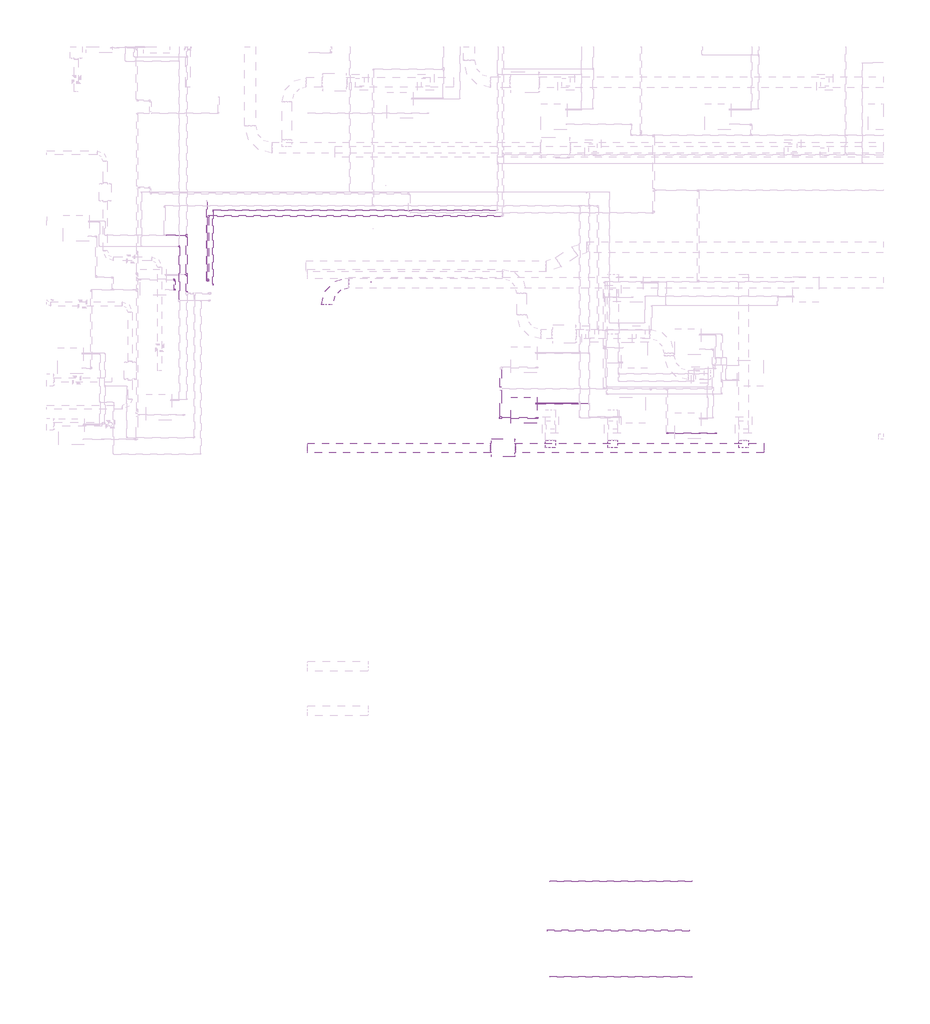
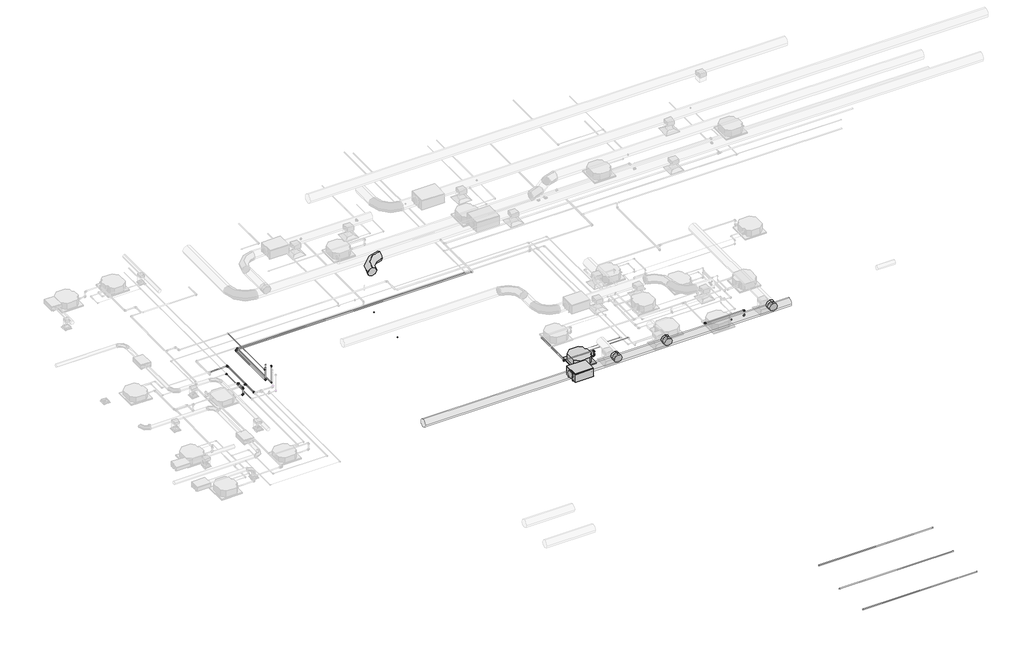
# One storey, part 4 of 21: 29 pipe fittings, 29 pipe segments, 4 duct fittings, 2 duct segments, 2 proxies.
"""IFC4 building model written with IfcOpenShell, lengths in millimetres."""

from ifc_helpers import new_model, si_unit, point, frame, frame_2d, origin, place, context, project, spatial, circle_curve, trimmed, segment, composite_curve, outline, extrude, transform, mapped, element, save
from components import mechanical_equipment_53173f38, fh_fh_355_93b582f7, duct_fitting_294424ae, duct_fitting_2_d_33ab650d, pipe_fitting_e2d793b1, pipe_fitting_535881cf, pipe_fitting_144f4440, pipe_fitting_83e925b4, pipe_fitting_752db109, pipe_fitting_1f557113, pipe_fitting_f1283f0f, pipe_fitting_b93b1fc9, pipe_fitting_5c29a625, pipe_fitting_aa3f564d, pipe_fitting_d2aaae93, pipe_fitting_bb3b7f9b, pipe_fitting_1806753b, pipe_fitting_c294872a, pipe_fitting_c900cfc2, pipe_fitting_16c020f5, pipe_fitting_09966660, pipe_fitting_d3e019f1, pipe_fitting_64d0e8e9, pipe_fitting_59d1f3e3, pipe_fitting_d1254744

model = new_model("IFC4")

# Units and contexts
model_context = context("Model", 3, world=origin())
ifc_project = project(units=[si_unit("LENGTHUNIT", "METRE", prefix="MILLI")], contexts=[model_context])

# Site, building, storey
site = spatial("IfcSite", under=ifc_project)
building = spatial("IfcBuilding", under=site)
storey = spatial("IfcBuildingStorey", under=building, Name="Nível 1", Elevation=0.0)

# Proxies
placement = place(None, origin())
mechanical_equipment_shape = mechanical_equipment_53173f38(model_context)
element("IfcBuildingElementProxy", 1, Name="Midea_VRF_Indoor_4-way Cassette_MI-90(100,112,140)Q4_DHN1-D (2nd DC) : MI2-140Q4DHN1", ObjectType="Midea_VRF_Indoor_4-way Cassette_MI-90(100,112,140)Q4_DHN1-D (2nd DC) : MI2-140Q4DHN1", at=placement, inside=storey, context=model_context, shape_type="MappedRepresentation", body=[
    mapped(mechanical_equipment_shape, transform((5033.5065764, -7334.8952411, 3000.4945252), x_axis=(1.0, 0.0, 0.0), y_axis=(0.0, 1.0, 0.0), z_axis=(0.0, 0.0, 1.0))),
])
fh_fh_355_shape = fh_fh_355_93b582f7(model_context)
element("IfcBuildingElementProxy", 2, Name="FH : FH 355", ObjectType="FH : FH 355", at=placement, inside=storey, context=model_context, shape_type="MappedRepresentation", body=[
    mapped(fh_fh_355_shape, transform((4261.4781645, -8711.4180027, 3400.0), x_axis=(0.0, 1.0, 0.0), y_axis=(-1.0, 0.0, 0.0), z_axis=(0.0, 0.0, 1.0))),
])

# Duct fittings
duct_fitting_shape = duct_fitting_294424ae(model_context)
element("IfcDuctFitting", 3, ObjectType="M_Encaixe de duto redondo : Padrão", at=placement, inside=storey, context=model_context, shape_type="MappedRepresentation", body=[
    mapped(duct_fitting_shape, transform((6000.8158576, -8533.9180027, 3605.0), x_axis=(0.0, 1.0, 0.0), y_axis=(1.0, 0.0, 0.0), z_axis=(0.0, 0.0, -1.0))),
])
element("IfcDuctFitting", 4, ObjectType="M_Encaixe de duto redondo : Padrão", at=placement, inside=storey, context=model_context, shape_type="MappedRepresentation", body=[
    mapped(duct_fitting_shape, transform((8288.7294152, -8533.9180027, 3605.0), x_axis=(0.0, 1.0, 0.0), y_axis=(1.0, 0.0, 0.0), z_axis=(0.0, 0.0, -1.0))),
])
element("IfcDuctFitting", 5, ObjectType="M_Encaixe de duto redondo : Padrão", at=placement, inside=storey, context=model_context, shape_type="MappedRepresentation", body=[
    mapped(duct_fitting_shape, transform((13079.0500257, -8533.9180027, 3605.0), x_axis=(0.0, 1.0, 0.0), y_axis=(1.0, 0.0, 0.0), z_axis=(0.0, 0.0, -1.0))),
])
duct_fitting_2_d_shape = duct_fitting_2_d_33ab650d(model_context)
element("IfcDuctFitting", 6, ObjectType="M_Cotovelo redondo : 2 D", at=placement, inside=storey, context=model_context, shape_type="MappedRepresentation", body=[
    mapped(duct_fitting_2_d_shape, transform((-2195.6317244, -2666.746009, 7501.0), x_axis=(-1.0, 0.0, 0.0), y_axis=(0.0, -1.0, 0.0), z_axis=(0.0, 0.0, 1.0))),
])

# Duct segments
element("IfcDuctSegment", 7, ObjectType="Torneiras / Raio curto", at=placement, inside=storey, context=model_context, shape_type="SweptSolid", body=[
    extrude(outline(composite_curve([segment(trimmed(circle_curve(frame_2d((-8711.4180027, 3605.0)), 177.5), [point((-8533.9180027, 3605.0))], [point((-8711.4180027, 3427.5))], False, "CARTESIAN"), True, "CONTINUOUS"), segment(trimmed(circle_curve(frame_2d((-8711.4180027, 3605.0)), 177.5), [point((-8711.4180027, 3427.5))], [point((-8888.9180027, 3605.0))], False, "CARTESIAN"), True, "CONTINUOUS"), segment(trimmed(circle_curve(frame_2d((-8711.4180027, 3605.0)), 177.5), [point((-8888.9180027, 3605.0))], [point((-8711.4180027, 3782.5))], False, "CARTESIAN"), True, "CONTINUOUS"), segment(trimmed(circle_curve(frame_2d((-8711.4180027, 3605.0)), 177.5), [point((-8711.4180027, 3782.5))], [point((-8533.9180027, 3605.0))], False, "CARTESIAN"), True, "CONTINUOUS")], self_intersect=False)), frame((-2892.5218355, 0.0, 0.0), z_axis=(1.0, 0.0, 0.0), x_axis=(0.0, 1.0, 0.0)), (0.0, 0.0, 1.0), 6700.0),
])
element("IfcDuctSegment", 8, ObjectType="Torneiras / Raio curto", at=placement, inside=storey, context=model_context, shape_type="SweptSolid", body=[
    extrude(outline(composite_curve([segment(trimmed(circle_curve(frame_2d((-8711.4180027, 3605.0)), 177.5), [point((-8888.9180027, 3605.0))], [point((-8711.4180027, 3782.5))], False, "CARTESIAN"), True, "CONTINUOUS"), segment(trimmed(circle_curve(frame_2d((-8711.4180027, 3605.0)), 177.5), [point((-8711.4180027, 3782.5))], [point((-8533.9180027, 3605.0))], False, "CARTESIAN"), True, "CONTINUOUS"), segment(trimmed(circle_curve(frame_2d((-8711.4180027, 3605.0)), 177.5), [point((-8533.9180027, 3605.0))], [point((-8711.4180027, 3427.5))], False, "CARTESIAN"), True, "CONTINUOUS"), segment(trimmed(circle_curve(frame_2d((-8711.4180027, 3605.0)), 177.5), [point((-8711.4180027, 3427.5))], [point((-8888.9180027, 3605.0))], False, "CARTESIAN"), True, "CONTINUOUS")], self_intersect=False)), frame((4715.4781645, 0.0, 0.0), z_axis=(1.0, 0.0, 0.0), x_axis=(0.0, 1.0, 0.0)), (0.0, 0.0, 1.0), 9100.0),
])

# Pipe fittings
pipe_fitting_shape = pipe_fitting_e2d793b1(model_context)
element("IfcPipeFitting", 9, ObjectType="Bucha de redução reta - Soldada - CU : Padrão", at=placement, inside=storey, context=model_context, shape_type="MappedRepresentation", body=[
    mapped(pipe_fitting_shape, transform((11461.5680522, -8180.0008917, 3252.3085101), x_axis=(1.0, 0.0, 0.0), y_axis=(0.0, 1.0, 0.0), z_axis=(0.0, 0.0, 1.0))),
])
pipe_fitting_2_shape = pipe_fitting_535881cf(model_context)
element("IfcPipeFitting", 10, ObjectType="Cotovelo - Soldado - CU : Padrão", at=placement, inside=storey, context=model_context, shape_type="MappedRepresentation", body=[
    mapped(pipe_fitting_2_shape, transform((12062.7783643, -8180.0008917, 3500.0), x_axis=(0.0, 0.0, 1.0), y_axis=(-1.0, 0.0, 0.0), z_axis=(0.0, -1.0, 0.0))),
])
element("IfcPipeFitting", 11, ObjectType="Cotovelo - Soldado - CU : Padrão", at=placement, inside=storey, context=model_context, shape_type="MappedRepresentation", body=[
    mapped(pipe_fitting_2_shape, transform((10262.7783643, -8180.0008917, 3500.0), x_axis=(0.0, -0.9999999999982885, 1.8501391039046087e-06), y_axis=(1.0, 0.0, 0.0), z_axis=(0.0, 1.8501391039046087e-06, 0.9999999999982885))),
])
pipe_fitting_3_shape = pipe_fitting_144f4440(model_context)
element("IfcPipeFitting", 12, ObjectType="Cotovelo - PVC - CW : Padrão", at=placement, inside=storey, context=model_context, shape_type="MappedRepresentation", body=[
    mapped(pipe_fitting_3_shape, transform((-7769.10566, -2922.9997871, 3500.0), x_axis=(0.0, 0.0, 1.0), y_axis=(0.0, 1.0, 0.0), z_axis=(-1.0, 0.0, 0.0))),
])
element("IfcPipeFitting", 13, ObjectType="Cotovelo - PVC - CW : Padrão", at=placement, inside=storey, context=model_context, shape_type="MappedRepresentation", body=[
    mapped(pipe_fitting_3_shape, transform((-7769.10566, -2542.9997871, 3500.0), x_axis=(0.0, 1.0, 0.0), y_axis=(-1.0, 0.0, 0.0), z_axis=(0.0, 0.0, 1.0))),
])
element("IfcPipeFitting", 14, ObjectType="Cotovelo - PVC - CW : Padrão", at=placement, inside=storey, context=model_context, shape_type="MappedRepresentation", body=[
    mapped(pipe_fitting_3_shape, transform((5528.9063239, -7619.8952411, 3252.8030352), x_axis=(1.0, 0.0, 0.0), y_axis=(0.0, 0.0, 1.0), z_axis=(0.0, -1.0, 0.0))),
])
pipe_fitting_4_shape = pipe_fitting_83e925b4(model_context)
element("IfcPipeFitting", 15, ObjectType="Cotovelo - PVC - CW : Padrão", at=placement, inside=storey, context=model_context, shape_type="MappedRepresentation", body=[
    mapped(pipe_fitting_4_shape, transform((-7769.10566, -2922.9997871, 3182.3), x_axis=(0.9999999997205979, 0.0, -2.3639036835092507e-05), y_axis=(2.3639036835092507e-05, 0.0, 0.9999999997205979), z_axis=(0.0, -1.0, 0.0))),
])
pipe_fitting_5_shape = pipe_fitting_752db109(model_context)
element("IfcPipeFitting", 16, ObjectType="Cotovelo - Soldado - CU : Padrão", at=placement, inside=storey, context=model_context, shape_type="MappedRepresentation", body=[
    mapped(pipe_fitting_5_shape, transform((12062.7783643, -8180.0008917, 3252.2999822), x_axis=(0.9999999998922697, 0.0, -1.467857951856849e-05), y_axis=(1.467857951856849e-05, 0.0, 0.9999999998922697), z_axis=(0.0, -1.0, 0.0))),
])
pipe_fitting_6_shape = pipe_fitting_1f557113(model_context)
element("IfcPipeFitting", 17, ObjectType="Redutor de acoplamento - PVC - CW : Padrão", at=placement, inside=storey, context=model_context, shape_type="MappedRepresentation", body=[
    mapped(pipe_fitting_6_shape, transform((5528.9063239, -7619.8952411, 3297.8030352), x_axis=(0.0, 0.0, 1.0), y_axis=(0.0, -1.0, 0.0), z_axis=(1.0, 0.0, 0.0))),
])
pipe_fitting_7_shape = pipe_fitting_f1283f0f(model_context)
element("IfcPipeFitting", 18, ObjectType="Cotovelo - PVC - CW : Padrão", at=placement, inside=storey, context=model_context, shape_type="MappedRepresentation", body=[
    mapped(pipe_fitting_7_shape, transform((5528.9063239, -7619.8952411, 3499.9933925), x_axis=(0.0, 0.0, 1.0), y_axis=(-1.0, 0.0, 0.0), z_axis=(0.0, -1.0, 0.0))),
])
pipe_fitting_8_shape = pipe_fitting_b93b1fc9(model_context)
element("IfcPipeFitting", 19, ObjectType="Tê de redução - PVC - CW : Padrão", at=placement, inside=storey, context=model_context, shape_type="MappedRepresentation", body=[
    mapped(pipe_fitting_8_shape, transform((4180.9794608, -7619.8952411, 3500.1186187), x_axis=(-0.9999999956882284, 0.0, 9.286303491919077e-05), y_axis=(0.0, -1.0, 0.0), z_axis=(9.286303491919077e-05, 0.0, 0.9999999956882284))),
])
pipe_fitting_9_shape = pipe_fitting_5c29a625(model_context)
element("IfcPipeFitting", 20, ObjectType="Bucha de redução reta - Soldada - CU : Padrão", at=placement, inside=storey, context=model_context, shape_type="MappedRepresentation", body=[
    mapped(pipe_fitting_9_shape, transform((-7325.4324434, -2998.2590524, 3182.3085101), x_axis=(0.0, 1.0, 0.0), y_axis=(-0.9999999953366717, 0.0, 9.657461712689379e-05), z_axis=(9.657461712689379e-05, 0.0, 0.9999999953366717))),
])
pipe_fitting_10_shape = pipe_fitting_aa3f564d(model_context)
element("IfcPipeFitting", 21, ObjectType="Tê - Soldado - CU : Padrão", at=placement, inside=storey, context=model_context, shape_type="MappedRepresentation", body=[
    mapped(pipe_fitting_10_shape, transform((-7325.4324434, -2364.7889735, 3182.3085101), x_axis=(0.0, -1.0, 0.0), y_axis=(1.0, 0.0, 0.0), z_axis=(0.0, 0.0, 1.0))),
])
element("IfcPipeFitting", 22, ObjectType="Tê - Soldado - CU : Padrão", at=placement, inside=storey, context=model_context, shape_type="MappedRepresentation", body=[
    mapped(pipe_fitting_10_shape, transform((-7325.4324434, -926.8697635, 3182.3085101), x_axis=(0.0, -1.0, 0.0), y_axis=(0.9999999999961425, 0.0, -2.777592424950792e-06), z_axis=(2.777592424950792e-06, 0.0, 0.9999999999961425))),
])
pipe_fitting_11_shape = pipe_fitting_d2aaae93(model_context)
element("IfcPipeFitting", 23, ObjectType="Bucha de redução reta - Soldada - CU : Padrão", at=placement, inside=storey, context=model_context, shape_type="MappedRepresentation", body=[
    mapped(pipe_fitting_11_shape, transform((-7371.0234434, -2364.7889735, 3182.3085101), x_axis=(-1.0, 0.0, 0.0), y_axis=(0.0, -1.0, 0.0), z_axis=(0.0, 0.0, 1.0))),
])
pipe_fitting_12_shape = pipe_fitting_bb3b7f9b(model_context)
element("IfcPipeFitting", 24, ObjectType="Bucha de redução reta - Soldada - CU : Padrão", at=placement, inside=storey, context=model_context, shape_type="MappedRepresentation", body=[
    mapped(pipe_fitting_12_shape, transform((-7325.4324434, -881.3392635, 3182.3085101), x_axis=(0.0, 1.0, 0.0), y_axis=(-0.9999999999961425, 0.0, 2.777592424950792e-06), z_axis=(2.777592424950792e-06, 0.0, 0.9999999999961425))),
])
pipe_fitting_13_shape = pipe_fitting_1806753b(model_context)
element("IfcPipeFitting", 25, ObjectType="Cotovelo - Soldado - CU : Padrão", at=placement, inside=storey, context=model_context, shape_type="MappedRepresentation", body=[
    mapped(pipe_fitting_13_shape, transform((-6372.1718372, -7.8240222, 3146.8), x_axis=(-1.0, 0.0, 0.0), y_axis=(0.0, -1.0, 0.0), z_axis=(0.0, 0.0, 1.0))),
])
element("IfcPipeFitting", 26, ObjectType="Cotovelo - Soldado - CU : Padrão", at=placement, inside=storey, context=model_context, shape_type="MappedRepresentation", body=[
    mapped(pipe_fitting_13_shape, transform((-6372.1718372, -2744.9060222, 3146.8), x_axis=(0.0, -1.0, 0.0), y_axis=(0.0, 0.0, 1.0), z_axis=(-1.0, 0.0, 0.0))),
])
element("IfcPipeFitting", 27, ObjectType="Cotovelo - Soldado - CU : Padrão", at=placement, inside=storey, context=model_context, shape_type="MappedRepresentation", body=[
    mapped(pipe_fitting_13_shape, transform((-6372.1718372, -2744.9060222, 3954.6), x_axis=(0.0, 0.0, 1.0), y_axis=(0.0, 1.0, 0.0), z_axis=(-1.0, 0.0, 0.0))),
])
pipe_fitting_14_shape = pipe_fitting_c294872a(model_context)
element("IfcPipeFitting", 28, ObjectType="Cotovelo - Soldado - CU : Padrão", at=placement, inside=storey, context=model_context, shape_type="MappedRepresentation", body=[
    mapped(pipe_fitting_14_shape, transform((-6547.9057355, -211.984439, 3252.3), x_axis=(-1.0, 0.0, 0.0), y_axis=(0.0, -1.0, 0.0), z_axis=(0.0, 0.0, 1.0))),
])
element("IfcPipeFitting", 29, ObjectType="Cotovelo - Soldado - CU : Padrão", at=placement, inside=storey, context=model_context, shape_type="MappedRepresentation", body=[
    mapped(pipe_fitting_14_shape, transform((-6547.9057355, -2591.984439, 3252.3), x_axis=(0.0, -1.0, 0.0), y_axis=(0.0, 0.0, 1.0), z_axis=(-1.0, 0.0, 0.0))),
])
pipe_fitting_15_shape = pipe_fitting_c900cfc2(model_context)
element("IfcPipeFitting", 30, ObjectType="Bucha de redução reta - Soldada - CU : Padrão", at=placement, inside=storey, context=model_context, shape_type="MappedRepresentation", body=[
    mapped(pipe_fitting_15_shape, transform((-508.6243589, -685.1179498, 3252.3085101), x_axis=(1.0, 0.0, 0.0), y_axis=(0.0, 1.0, 0.0), z_axis=(0.0, 0.0, 1.0))),
])
element("IfcPipeFitting", 31, ObjectType="Bucha de redução reta - Soldada - CU : Padrão", at=placement, inside=storey, context=model_context, shape_type="MappedRepresentation", body=[
    mapped(pipe_fitting_15_shape, transform((5458.5065764, -7061.6844274, 3252.8030352), x_axis=(1.0, 0.0, 0.0), y_axis=(0.0, 1.0, 0.0), z_axis=(0.0, 0.0, 1.0))),
])
pipe_fitting_16_shape = pipe_fitting_16c020f5(model_context)
element("IfcPipeFitting", 32, ObjectType="Cotovelo - Soldado - CU : Padrão", at=placement, inside=storey, context=model_context, shape_type="MappedRepresentation", body=[
    mapped(pipe_fitting_16_shape, transform((-6589.5432355, -2591.984439, 3752.3), x_axis=(0.0, -1.0, 0.0), y_axis=(0.0, 0.0, 1.0), z_axis=(-1.0, 0.0, 0.0))),
])
pipe_fitting_17_shape = pipe_fitting_09966660(model_context)
element("IfcPipeFitting", 33, ObjectType="Tê - Soldado - CU : Padrão", at=placement, inside=storey, context=model_context, shape_type="MappedRepresentation", body=[
    mapped(pipe_fitting_17_shape, transform((-7605.4324434, -1333.9203916, 3146.8446487), x_axis=(0.0, -1.0, 0.0), y_axis=(1.0, 0.0, 0.0), z_axis=(0.0, 0.0, 1.0))),
])
pipe_fitting_18_shape = pipe_fitting_d3e019f1(model_context)
element("IfcPipeFitting", 34, ObjectType="Bucha de redução reta - Soldada - CU : Padrão", at=placement, inside=storey, context=model_context, shape_type="MappedRepresentation", body=[
    mapped(pipe_fitting_18_shape, transform((-558.6839535, -2635.8022388, 3252.3085101), x_axis=(-1.0, 0.0, 0.0), y_axis=(0.0, -1.0, 0.0), z_axis=(0.0, 0.0, 1.0))),
])
pipe_fitting_19_shape = pipe_fitting_64d0e8e9(model_context)
element("IfcPipeFitting", 35, ObjectType="Bucha de redução reta - Soldada - CU : Padrão", at=placement, inside=storey, context=model_context, shape_type="MappedRepresentation", body=[
    mapped(pipe_fitting_19_shape, transform((-6589.5432355, -2563.005839, 3752.3), x_axis=(0.0, 1.0, 0.0), y_axis=(-1.0, 0.0, 0.0), z_axis=(0.0, 0.0, 1.0))),
])
pipe_fitting_20_shape = pipe_fitting_59d1f3e3(model_context)
element("IfcPipeFitting", 36, ObjectType="Bucha de redução reta - Soldada - CU : Padrão", at=placement, inside=storey, context=model_context, shape_type="MappedRepresentation", body=[
    mapped(pipe_fitting_20_shape, transform((5518.9808167, -7095.4868693, 3146.8446487), x_axis=(1.0, 0.0, 0.0), y_axis=(0.0, 1.0, 0.0), z_axis=(0.0, 0.0, 1.0))),
])
pipe_fitting_21_shape = pipe_fitting_d1254744(model_context)
element("IfcPipeFitting", 37, ObjectType="Bucha de redução reta - Soldada - CU : Padrão", at=placement, inside=storey, context=model_context, shape_type="MappedRepresentation", body=[
    mapped(pipe_fitting_21_shape, transform((-7605.4324434, -1303.7251416, 3146.8446487), x_axis=(0.0, 1.0, 0.0), y_axis=(-1.0, 0.0, 0.0), z_axis=(0.0, 0.0, 1.0))),
])

# Pipe segments
element("IfcPipeSegment", 38, ObjectType="Tubos de cobre HVAC", at=placement, inside=storey, context=model_context, shape_type="SweptSolid", body=[
    extrude(outline(composite_curve([segment(trimmed(circle_curve(frame_2d((0.0, -7.935)), 7.935), [point((-7.935, -7.935))], [point((0.0, 0.0))], False, "CARTESIAN"), True, "CONTINUOUS"), segment(trimmed(circle_curve(frame_2d((0.0, -7.935)), 7.935), [point((0.0, 0.0))], [point((7.935, -7.935))], False, "CARTESIAN"), True, "CONTINUOUS"), segment(trimmed(circle_curve(frame_2d((0.0, -7.935)), 7.935), [point((7.935, -7.935))], [point((0.0, -15.87))], False, "CARTESIAN"), True, "CONTINUOUS"), segment(trimmed(circle_curve(frame_2d((0.0, -7.935)), 7.935), [point((0.0, -15.87))], [point((-7.935, -7.935))], False, "CARTESIAN"), True, "CONTINUOUS")], self_intersect=False)), frame((7029.5176934, -7061.6844274, 3244.8597677), z_axis=(-0.9999999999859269, 0.0, 5.30530361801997e-06), x_axis=(0.0, 1.0, 0.0)), (0.0, 0.0, 1.0), 1558.352259),
])
element("IfcPipeSegment", 39, ObjectType="Tubos de cobre HVAC", at=placement, inside=storey, context=model_context, shape_type="SweptSolid", body=[
    extrude(outline(composite_curve([segment(trimmed(circle_curve(frame_2d((-7095.4868693, 3147.3391739)), 4.76), [point((-7100.2468693, 3147.3391739))], [point((-7095.4868693, 3152.0991739))], False, "CARTESIAN"), True, "CONTINUOUS"), segment(trimmed(circle_curve(frame_2d((-7095.4868693, 3147.3391739)), 4.76), [point((-7095.4868693, 3152.0991739))], [point((-7090.7268693, 3147.3391739))], False, "CARTESIAN"), True, "CONTINUOUS"), segment(trimmed(circle_curve(frame_2d((-7095.4868693, 3147.3391739)), 4.76), [point((-7090.7268693, 3147.3391739))], [point((-7095.4868693, 3142.5791739))], False, "CARTESIAN"), True, "CONTINUOUS"), segment(trimmed(circle_curve(frame_2d((-7095.4868693, 3147.3391739)), 4.76), [point((-7095.4868693, 3142.5791739))], [point((-7100.2468693, 3147.3391739))], False, "CARTESIAN"), True, "CONTINUOUS")], self_intersect=False)), frame((5528.6552167, 0.0, 0.0), z_axis=(1.0, 0.0, 0.0), x_axis=(0.0, 1.0, 0.0)), (0.0, 0.0, 1.0), 1872.055521),
])
element("IfcPipeSegment", 40, ObjectType="Tubos de cobre HVAC", at=placement, inside=storey, context=model_context, shape_type="SweptSolid", body=[
    extrude(outline(composite_curve([segment(trimmed(circle_curve(frame_2d((-211.984439, 3252.3)), 25.4), [point((-237.384439, 3252.3))], [point((-211.984439, 3277.7))], False, "CARTESIAN"), True, "CONTINUOUS"), segment(trimmed(circle_curve(frame_2d((-211.984439, 3252.3)), 25.4), [point((-211.984439, 3277.7))], [point((-186.584439, 3252.3))], False, "CARTESIAN"), True, "CONTINUOUS"), segment(trimmed(circle_curve(frame_2d((-211.984439, 3252.3)), 25.4), [point((-186.584439, 3252.3))], [point((-211.984439, 3226.9))], False, "CARTESIAN"), True, "CONTINUOUS"), segment(trimmed(circle_curve(frame_2d((-211.984439, 3252.3)), 25.4), [point((-211.984439, 3226.9))], [point((-237.384439, 3252.3))], False, "CARTESIAN"), True, "CONTINUOUS")], self_intersect=False)), frame((-6491.6817355, 0.0, 0.0), z_axis=(1.0, 0.0, 0.0), x_axis=(0.0, 1.0, 0.0)), (0.0, 0.0, 1.0), 10696.9359),
])
element("IfcPipeSegment", 41, ObjectType="Tubos de cobre HVAC", at=placement, inside=storey, context=model_context, shape_type="SweptSolid", body=[
    extrude(outline(composite_curve([segment(trimmed(circle_curve(frame_2d((3752.3, -6589.5432355)), 9.525), [point((3752.3, -6599.0682355))], [point((3742.775, -6589.5432355))], False, "CARTESIAN"), True, "CONTINUOUS"), segment(trimmed(circle_curve(frame_2d((3752.3, -6589.5432355)), 9.525), [point((3742.775, -6589.5432355))], [point((3752.3, -6580.0182355))], False, "CARTESIAN"), True, "CONTINUOUS"), segment(trimmed(circle_curve(frame_2d((3752.3, -6589.5432355)), 9.525), [point((3752.3, -6580.0182355))], [point((3761.825, -6589.5432355))], False, "CARTESIAN"), True, "CONTINUOUS"), segment(trimmed(circle_curve(frame_2d((3752.3, -6589.5432355)), 9.525), [point((3761.825, -6589.5432355))], [point((3752.3, -6599.0682355))], False, "CARTESIAN"), True, "CONTINUOUS")], self_intersect=False)), frame((0.0, -2550.346939, 0.0), z_axis=(0.0, 1.0, 0.0), x_axis=(0.0, 0.0, 1.0)), (0.0, 0.0, 1.0), 2856.725),
])
element("IfcPipeSegment", 42, ObjectType="Tubos de cobre HVAC", at=placement, inside=storey, context=model_context, shape_type="SweptSolid", body=[
    extrude(outline(composite_curve([segment(trimmed(circle_curve(frame_2d((-6589.5432355, -2591.984439)), 7.935), [point((-6597.4782355, -2591.984439))], [point((-6589.5432355, -2584.049439))], False, "CARTESIAN"), True, "CONTINUOUS"), segment(trimmed(circle_curve(frame_2d((-6589.5432355, -2591.984439)), 7.935), [point((-6589.5432355, -2584.049439))], [point((-6581.6082355, -2591.984439))], False, "CARTESIAN"), True, "CONTINUOUS"), segment(trimmed(circle_curve(frame_2d((-6589.5432355, -2591.984439)), 7.935), [point((-6581.6082355, -2591.984439))], [point((-6589.5432355, -2599.919439))], False, "CARTESIAN"), True, "CONTINUOUS"), segment(trimmed(circle_curve(frame_2d((-6589.5432355, -2591.984439)), 7.935), [point((-6589.5432355, -2599.919439))], [point((-6597.4782355, -2591.984439))], False, "CARTESIAN"), True, "CONTINUOUS")], self_intersect=False)), frame((0.0, 0.0, 3781.2786), z_axis=(0.0, 0.0, 1.0), x_axis=(1.0, 0.0, 0.0)), (0.0, 0.0, 1.0), 93.5035),
])
element("IfcPipeSegment", 43, ObjectType="Tubos de cobre HVAC", at=placement, inside=storey, context=model_context, shape_type="SweptSolid", body=[
    extrude(outline(composite_curve([segment(trimmed(circle_curve(frame_2d((-7.8240222, 3146.8)), 12.7), [point((-20.5240222, 3146.8))], [point((-7.8240222, 3159.5))], False, "CARTESIAN"), True, "CONTINUOUS"), segment(trimmed(circle_curve(frame_2d((-7.8240222, 3146.8)), 12.7), [point((-7.8240222, 3159.5))], [point((4.8759778, 3146.8))], False, "CARTESIAN"), True, "CONTINUOUS"), segment(trimmed(circle_curve(frame_2d((-7.8240222, 3146.8)), 12.7), [point((4.8759778, 3146.8))], [point((-7.8240222, 3134.1))], False, "CARTESIAN"), True, "CONTINUOUS"), segment(trimmed(circle_curve(frame_2d((-7.8240222, 3146.8)), 12.7), [point((-7.8240222, 3134.1))], [point((-20.5240222, 3146.8))], False, "CARTESIAN"), True, "CONTINUOUS")], self_intersect=False)), frame((-6335.7598372, 0.0, 0.0), z_axis=(1.0, 0.0, 0.0), x_axis=(0.0, 1.0, 0.0)), (0.0, 0.0, 1.0), 10367.176),
])
element("IfcPipeSegment", 44, ObjectType="Tubos de cobre HVAC", at=placement, inside=storey, context=model_context, shape_type="SweptSolid", body=[
    extrude(outline(composite_curve([segment(trimmed(circle_curve(frame_2d((3146.8, -6372.1718372)), 12.7), [point((3146.8, -6384.8718372))], [point((3134.1, -6372.1718372))], False, "CARTESIAN"), True, "CONTINUOUS"), segment(trimmed(circle_curve(frame_2d((3146.8, -6372.1718372)), 12.7), [point((3134.1, -6372.1718372))], [point((3146.8, -6359.4718372))], False, "CARTESIAN"), True, "CONTINUOUS"), segment(trimmed(circle_curve(frame_2d((3146.8, -6372.1718372)), 12.7), [point((3146.8, -6359.4718372))], [point((3159.5, -6372.1718372))], False, "CARTESIAN"), True, "CONTINUOUS"), segment(trimmed(circle_curve(frame_2d((3146.8, -6372.1718372)), 12.7), [point((3159.5, -6372.1718372))], [point((3146.8, -6384.8718372))], False, "CARTESIAN"), True, "CONTINUOUS")], self_intersect=False)), frame((0.0, -2708.4940222, 0.0), z_axis=(0.0, 1.0, 0.0), x_axis=(0.0, 0.0, 1.0)), (0.0, 0.0, 1.0), 2664.258),
])
element("IfcPipeSegment", 45, ObjectType="Plástico", at=placement, inside=storey, context=model_context, shape_type="SweptSolid", body=[
    extrude(outline(composite_curve([segment(trimmed(circle_curve(frame_2d((-7769.10566, -2922.9997871)), 20.0), [point((-7749.10566, -2922.9997871))], [point((-7769.10566, -2942.9997871))], False, "CARTESIAN"), True, "CONTINUOUS"), segment(trimmed(circle_curve(frame_2d((-7769.10566, -2922.9997871)), 20.0), [point((-7769.10566, -2942.9997871))], [point((-7789.10566, -2922.9997871))], False, "CARTESIAN"), True, "CONTINUOUS"), segment(trimmed(circle_curve(frame_2d((-7769.10566, -2922.9997871)), 20.0), [point((-7789.10566, -2922.9997871))], [point((-7769.10566, -2902.9997871))], False, "CARTESIAN"), True, "CONTINUOUS"), segment(trimmed(circle_curve(frame_2d((-7769.10566, -2922.9997871)), 20.0), [point((-7769.10566, -2902.9997871))], [point((-7749.10566, -2922.9997871))], False, "CARTESIAN"), True, "CONTINUOUS")], self_intersect=False)), frame((0.0, 0.0, 3227.3005437), z_axis=(0.0, 0.0, 1.0), x_axis=(1.0, 0.0, 0.0)), (0.0, 0.0, 1.0), 227.6994563),
])
element("IfcPipeSegment", 46, ObjectType="Plástico", at=placement, inside=storey, context=model_context, shape_type="SweptSolid", body=[
    extrude(outline(composite_curve([segment(trimmed(circle_curve(frame_2d((3500.0, -7769.10566)), 20.0), [point((3500.0, -7749.10566))], [point((3520.0, -7769.10566))], False, "CARTESIAN"), True, "CONTINUOUS"), segment(trimmed(circle_curve(frame_2d((3500.0, -7769.10566)), 20.0), [point((3520.0, -7769.10566))], [point((3500.0, -7789.10566))], False, "CARTESIAN"), True, "CONTINUOUS"), segment(trimmed(circle_curve(frame_2d((3500.0, -7769.10566)), 20.0), [point((3500.0, -7789.10566))], [point((3480.0, -7769.10566))], False, "CARTESIAN"), True, "CONTINUOUS"), segment(trimmed(circle_curve(frame_2d((3500.0, -7769.10566)), 20.0), [point((3480.0, -7769.10566))], [point((3500.0, -7749.10566))], False, "CARTESIAN"), True, "CONTINUOUS")], self_intersect=False)), frame((0.0, -2877.9997871, 0.0), z_axis=(0.0, 1.0, 0.0), x_axis=(0.0, 0.0, 1.0)), (0.0, 0.0, 1.0), 290.0),
])
element("IfcPipeSegment", 47, ObjectType="Plástico", at=placement, inside=storey, context=model_context, shape_type="SweptSolid", body=[
    extrude(outline(composite_curve([segment(trimmed(circle_curve(frame_2d((-7619.8952411, 3252.8030352)), 20.0), [point((-7639.8952411, 3252.8030352))], [point((-7619.8952411, 3272.8030352))], False, "CARTESIAN"), True, "CONTINUOUS"), segment(trimmed(circle_curve(frame_2d((-7619.8952411, 3252.8030352)), 20.0), [point((-7619.8952411, 3272.8030352))], [point((-7599.8952411, 3252.8030352))], False, "CARTESIAN"), True, "CONTINUOUS"), segment(trimmed(circle_curve(frame_2d((-7619.8952411, 3252.8030352)), 20.0), [point((-7599.8952411, 3252.8030352))], [point((-7619.8952411, 3232.8030352))], False, "CARTESIAN"), True, "CONTINUOUS"), segment(trimmed(circle_curve(frame_2d((-7619.8952411, 3252.8030352)), 20.0), [point((-7619.8952411, 3232.8030352))], [point((-7639.8952411, 3252.8030352))], False, "CARTESIAN"), True, "CONTINUOUS")], self_intersect=False)), frame((5458.5065764, 0.0, 0.0), z_axis=(1.0, 0.0, 0.0), x_axis=(0.0, 1.0, 0.0)), (0.0, 0.0, 1.0), 25.3997474),
])
element("IfcPipeSegment", 48, ObjectType="Plástico", at=placement, inside=storey, context=model_context, shape_type="SweptSolid", body=[
    extrude(outline(composite_curve([segment(trimmed(circle_curve(frame_2d((5528.9063239, -7619.8952411)), 25.0), [point((5503.9063239, -7619.8952411))], [point((5528.9063239, -7594.8952411))], False, "CARTESIAN"), True, "CONTINUOUS"), segment(trimmed(circle_curve(frame_2d((5528.9063239, -7619.8952411)), 25.0), [point((5528.9063239, -7594.8952411))], [point((5553.9063239, -7619.8952411))], False, "CARTESIAN"), True, "CONTINUOUS"), segment(trimmed(circle_curve(frame_2d((5528.9063239, -7619.8952411)), 25.0), [point((5553.9063239, -7619.8952411))], [point((5528.9063239, -7644.8952411))], False, "CARTESIAN"), True, "CONTINUOUS"), segment(trimmed(circle_curve(frame_2d((5528.9063239, -7619.8952411)), 25.0), [point((5528.9063239, -7644.8952411))], [point((5503.9063239, -7619.8952411))], False, "CARTESIAN"), True, "CONTINUOUS")], self_intersect=False)), frame((0.0, 0.0, 3359.0030352), z_axis=(0.0, 0.0, 1.0), x_axis=(1.0, 0.0, 0.0)), (0.0, 0.0, 1.0), 86.9929851),
])
element("IfcPipeSegment", 49, ObjectType="Plástico", at=placement, inside=storey, context=model_context, shape_type="SweptSolid", body=[
    extrude(outline(composite_curve([segment(trimmed(circle_curve(frame_2d((0.0, -25.0)), 25.0), [point((0.0, -50.0))], [point((-25.0000001, -25.0))], False, "CARTESIAN"), True, "CONTINUOUS"), segment(trimmed(circle_curve(frame_2d((0.0, -25.0)), 25.0), [point((-25.0000001, -25.0))], [point((0.0, 0.0))], False, "CARTESIAN"), True, "CONTINUOUS"), segment(trimmed(circle_curve(frame_2d((0.0, -25.0)), 25.0), [point((0.0, 0.0))], [point((25.0, -25.0))], False, "CARTESIAN"), True, "CONTINUOUS"), segment(trimmed(circle_curve(frame_2d((0.0, -25.0)), 25.0), [point((25.0, -25.0))], [point((0.0, -50.0))], False, "CARTESIAN"), True, "CONTINUOUS")], self_intersect=False)), frame((4155.9794608, -5828.5068426, 3500.0035762), z_axis=(0.0, -0.9999999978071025, 6.622533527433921e-05), x_axis=(0.0, 6.622533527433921e-05, 0.9999999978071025)), (0.0, 0.0, 1.0), 671.0384002),
])
element("IfcPipeSegment", 50, ObjectType="Plástico", at=placement, inside=storey, context=model_context, shape_type="SweptSolid", body=[
    extrude(outline(composite_curve([segment(trimmed(circle_curve(frame_2d((0.0, 25.0)), 25.0), [point((-25.0, 25.0))], [point((0.0, 50.0))], False, "CARTESIAN"), True, "CONTINUOUS"), segment(trimmed(circle_curve(frame_2d((0.0, 25.0)), 25.0), [point((0.0, 50.0))], [point((25.0, 25.0))], False, "CARTESIAN"), True, "CONTINUOUS"), segment(trimmed(circle_curve(frame_2d((0.0, 25.0)), 25.0), [point((25.0, 25.0))], [point((0.0, 0.0))], False, "CARTESIAN"), True, "CONTINUOUS"), segment(trimmed(circle_curve(frame_2d((0.0, 25.0)), 25.0), [point((0.0, 0.0))], [point((-25.0, 25.0))], False, "CARTESIAN"), True, "CONTINUOUS")], self_intersect=False)), frame((5474.9066304, -7619.8952411, 3474.9984606), z_axis=(-0.9999999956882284, 0.0, 9.286303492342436e-05), x_axis=(0.0, -1.0, 0.0)), (0.0, 0.0, 1.0), 1243.5794968),
])
element("IfcPipeSegment", 51, ObjectType="Plástico", at=placement, inside=storey, context=model_context, shape_type="SweptSolid", body=[
    extrude(outline(composite_curve([segment(trimmed(circle_curve(frame_2d((0.0, -25.0)), 25.0), [point((0.0, -50.0))], [point((-25.0, -25.0))], False, "CARTESIAN"), True, "CONTINUOUS"), segment(trimmed(circle_curve(frame_2d((0.0, -25.0)), 25.0), [point((-25.0, -25.0))], [point((0.0, 0.0))], False, "CARTESIAN"), True, "CONTINUOUS"), segment(trimmed(circle_curve(frame_2d((0.0, -25.0)), 25.0), [point((0.0, 0.0))], [point((25.0, -25.0))], False, "CARTESIAN"), True, "CONTINUOUS"), segment(trimmed(circle_curve(frame_2d((0.0, -25.0)), 25.0), [point((25.0, -25.0))], [point((0.0, -50.0))], False, "CARTESIAN"), True, "CONTINUOUS")], self_intersect=False)), frame((4155.9794608, -6600.2452411, 3500.0546848), z_axis=(0.0, -0.9999999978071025, 6.62253352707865e-05), x_axis=(0.0, 6.62253352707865e-05, 0.9999999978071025)), (0.0, 0.0, 1.0), 965.4000021),
])
element("IfcPipeSegment", 52, ObjectType="Tubos de cobre HVAC", at=placement, inside=storey, context=model_context, shape_type="SweptSolid", body=[
    extrude(outline(composite_curve([segment(trimmed(circle_curve(frame_2d((0.0, -17.5)), 17.5), [point((-17.5, -17.5))], [point((0.0, 0.0))], False, "CARTESIAN"), True, "CONTINUOUS"), segment(trimmed(circle_curve(frame_2d((0.0, -17.5)), 17.5), [point((0.0, 0.0))], [point((17.5, -17.5))], False, "CARTESIAN"), True, "CONTINUOUS"), segment(trimmed(circle_curve(frame_2d((0.0, -17.5)), 17.5), [point((17.5, -17.5))], [point((0.0, -35.0))], False, "CARTESIAN"), True, "CONTINUOUS"), segment(trimmed(circle_curve(frame_2d((0.0, -17.5)), 17.5), [point((0.0, -35.0))], [point((-17.5, -17.5))], False, "CARTESIAN"), True, "CONTINUOUS")], self_intersect=False)), frame((12021.1781074, -8180.0008917, 3234.8005929), z_axis=(-0.9999999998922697, 0.0, 1.4678579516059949e-05), x_axis=(0.0, 1.0, 0.0)), (0.0, 0.0, 1.0), 539.3703122),
])
element("IfcPipeSegment", 53, ObjectType="Tubos de cobre HVAC", at=placement, inside=storey, context=model_context, shape_type="SweptSolid", body=[
    extrude(outline(composite_curve([segment(trimmed(circle_curve(frame_2d((12062.7783643, -8180.0008917)), 17.5), [point((12080.2783643, -8180.0008917))], [point((12062.7783643, -8197.5008917))], False, "CARTESIAN"), True, "CONTINUOUS"), segment(trimmed(circle_curve(frame_2d((12062.7783643, -8180.0008917)), 17.5), [point((12062.7783643, -8197.5008917))], [point((12045.2783643, -8180.0008917))], False, "CARTESIAN"), True, "CONTINUOUS"), segment(trimmed(circle_curve(frame_2d((12062.7783643, -8180.0008917)), 17.5), [point((12045.2783643, -8180.0008917))], [point((12062.7783643, -8162.5008917))], False, "CARTESIAN"), True, "CONTINUOUS"), segment(trimmed(circle_curve(frame_2d((12062.7783643, -8180.0008917)), 17.5), [point((12062.7783643, -8162.5008917))], [point((12080.2783643, -8180.0008917))], False, "CARTESIAN"), True, "CONTINUOUS")], self_intersect=False)), frame((0.0, 0.0, 3293.8999822), z_axis=(0.0, 0.0, 1.0), x_axis=(1.0, 0.0, 0.0)), (0.0, 0.0, 1.0), 164.5000178),
])
element("IfcPipeSegment", 54, ObjectType="Tubos de cobre HVAC", at=placement, inside=storey, context=model_context, shape_type="SweptSolid", body=[
    extrude(outline(composite_curve([segment(trimmed(circle_curve(frame_2d((-8180.0008917, 3500.0)), 17.5), [point((-8162.5008917, 3500.0))], [point((-8180.0008917, 3482.5))], False, "CARTESIAN"), True, "CONTINUOUS"), segment(trimmed(circle_curve(frame_2d((-8180.0008917, 3500.0)), 17.5), [point((-8180.0008917, 3482.5))], [point((-8197.5008917, 3500.0))], False, "CARTESIAN"), True, "CONTINUOUS"), segment(trimmed(circle_curve(frame_2d((-8180.0008917, 3500.0)), 17.5), [point((-8197.5008917, 3500.0))], [point((-8180.0008917, 3517.5))], False, "CARTESIAN"), True, "CONTINUOUS"), segment(trimmed(circle_curve(frame_2d((-8180.0008917, 3500.0)), 17.5), [point((-8180.0008917, 3517.5))], [point((-8162.5008917, 3500.0))], False, "CARTESIAN"), True, "CONTINUOUS")], self_intersect=False)), frame((10304.3783643, 0.0, 0.0), z_axis=(1.0, 0.0, 0.0), x_axis=(0.0, 1.0, 0.0)), (0.0, 0.0, 1.0), 1716.8),
])
element("IfcPipeSegment", 55, ObjectType="Tubos de cobre HVAC", at=placement, inside=storey, context=model_context, shape_type="SweptSolid", body=[
    extrude(outline(composite_curve([segment(trimmed(circle_curve(frame_2d((3182.3085101, -7325.4324434)), 19.05), [point((3182.3085101, -7306.3824434))], [point((3201.3585101, -7325.4324434))], False, "CARTESIAN"), True, "CONTINUOUS"), segment(trimmed(circle_curve(frame_2d((3182.3085101, -7325.4324434)), 19.05), [point((3201.3585101, -7325.4324434))], [point((3182.3085101, -7344.4824434))], False, "CARTESIAN"), True, "CONTINUOUS"), segment(trimmed(circle_curve(frame_2d((3182.3085101, -7325.4324434)), 19.05), [point((3182.3085101, -7344.4824434))], [point((3163.2585101, -7325.4324434))], False, "CARTESIAN"), True, "CONTINUOUS"), segment(trimmed(circle_curve(frame_2d((3182.3085101, -7325.4324434)), 19.05), [point((3163.2585101, -7325.4324434))], [point((3182.3085101, -7306.3824434))], False, "CARTESIAN"), True, "CONTINUOUS")], self_intersect=False)), frame((0.0, -2975.1520524, 0.0), z_axis=(0.0, 1.0, 0.0), x_axis=(0.0, 0.0, 1.0)), (0.0, 0.0, 1.0), 564.832579),
])
element("IfcPipeSegment", 56, ObjectType="Tubos de cobre HVAC", at=placement, inside=storey, context=model_context, shape_type="SweptSolid", body=[
    extrude(outline(composite_curve([segment(trimmed(circle_curve(frame_2d((3182.3085101, -7325.4324434)), 19.05), [point((3182.3085101, -7306.3824434))], [point((3201.3585101, -7325.4324434))], False, "CARTESIAN"), True, "CONTINUOUS"), segment(trimmed(circle_curve(frame_2d((3182.3085101, -7325.4324434)), 19.05), [point((3201.3585101, -7325.4324434))], [point((3182.3085101, -7344.4824434))], False, "CARTESIAN"), True, "CONTINUOUS"), segment(trimmed(circle_curve(frame_2d((3182.3085101, -7325.4324434)), 19.05), [point((3182.3085101, -7344.4824434))], [point((3163.2585101, -7325.4324434))], False, "CARTESIAN"), True, "CONTINUOUS"), segment(trimmed(circle_curve(frame_2d((3182.3085101, -7325.4324434)), 19.05), [point((3163.2585101, -7325.4324434))], [point((3182.3085101, -7306.3824434))], False, "CARTESIAN"), True, "CONTINUOUS")], self_intersect=False)), frame((0.0, -2319.2584735, 0.0), z_axis=(0.0, 1.0, 0.0), x_axis=(0.0, 0.0, 1.0)), (0.0, 0.0, 1.0), 1346.85821),
])
element("IfcPipeSegment", 57, ObjectType="Tubos de cobre HVAC", at=placement, inside=storey, context=model_context, shape_type="SweptSolid", body=[
    extrude(outline(composite_curve([segment(trimmed(circle_curve(frame_2d((-926.8697635, 3182.3086367)), 19.05), [point((-907.8197635, 3182.3086367))], [point((-926.8697635, 3163.2586367))], False, "CARTESIAN"), True, "CONTINUOUS"), segment(trimmed(circle_curve(frame_2d((-926.8697635, 3182.3086367)), 19.05), [point((-926.8697635, 3163.2586367))], [point((-945.9197635, 3182.3086367))], False, "CARTESIAN"), True, "CONTINUOUS"), segment(trimmed(circle_curve(frame_2d((-926.8697635, 3182.3086367)), 19.05), [point((-945.9197635, 3182.3086367))], [point((-926.8697635, 3201.3586367))], False, "CARTESIAN"), True, "CONTINUOUS"), segment(trimmed(circle_curve(frame_2d((-926.8697635, 3182.3086367)), 19.05), [point((-926.8697635, 3201.3586367))], [point((-907.8197635, 3182.3086367))], False, "CARTESIAN"), True, "CONTINUOUS")], self_intersect=False)), frame((-8088.5688078, 0.0, 0.0), z_axis=(1.0, 0.0, 0.0), x_axis=(0.0, 1.0, 0.0)), (0.0, 0.0, 1.0), 717.5453644),
])
element("IfcPipeSegment", 58, ObjectType="Tubos de cobre HVAC", at=placement, inside=storey, context=model_context, shape_type="SweptSolid", body=[
    extrude(outline(composite_curve([segment(trimmed(circle_curve(frame_2d((-7095.4868693, 3147.3391739)), 4.765), [point((-7100.2518693, 3147.3391739))], [point((-7095.4868693, 3152.1041739))], False, "CARTESIAN"), True, "CONTINUOUS"), segment(trimmed(circle_curve(frame_2d((-7095.4868693, 3147.3391739)), 4.765), [point((-7095.4868693, 3152.1041739))], [point((-7090.7218693, 3147.3391739))], False, "CARTESIAN"), True, "CONTINUOUS"), segment(trimmed(circle_curve(frame_2d((-7095.4868693, 3147.3391739)), 4.765), [point((-7090.7218693, 3147.3391739))], [point((-7095.4868693, 3142.5741739))], False, "CARTESIAN"), True, "CONTINUOUS"), segment(trimmed(circle_curve(frame_2d((-7095.4868693, 3147.3391739)), 4.765), [point((-7095.4868693, 3142.5741739))], [point((-7100.2518693, 3147.3391739))], False, "CARTESIAN"), True, "CONTINUOUS")], self_intersect=False)), frame((5458.5065764, 0.0, 0.0), z_axis=(1.0, 0.0, 0.0), x_axis=(0.0, 1.0, 0.0)), (0.0, 0.0, 1.0), 60.4742402),
])
element("IfcPipeSegment", 59, ObjectType="Tubos de cobre HVAC", at=placement, inside=storey, context=model_context, shape_type="SweptSolid", body=[
    extrude(outline(composite_curve([segment(trimmed(circle_curve(frame_2d((3252.3, -6547.9057355)), 25.4), [point((3252.3, -6573.3057355))], [point((3226.9, -6547.9057355))], False, "CARTESIAN"), True, "CONTINUOUS"), segment(trimmed(circle_curve(frame_2d((3252.3, -6547.9057355)), 25.4), [point((3226.9, -6547.9057355))], [point((3252.3, -6522.5057355))], False, "CARTESIAN"), True, "CONTINUOUS"), segment(trimmed(circle_curve(frame_2d((3252.3, -6547.9057355)), 25.4), [point((3252.3, -6522.5057355))], [point((3277.7, -6547.9057355))], False, "CARTESIAN"), True, "CONTINUOUS"), segment(trimmed(circle_curve(frame_2d((3252.3, -6547.9057355)), 25.4), [point((3277.7, -6547.9057355))], [point((3252.3, -6573.3057355))], False, "CARTESIAN"), True, "CONTINUOUS")], self_intersect=False)), frame((0.0, -2535.760439, 0.0), z_axis=(0.0, 1.0, 0.0), x_axis=(0.0, 0.0, 1.0)), (0.0, 0.0, 1.0), 2267.552),
])
element("IfcPipeSegment", 60, ObjectType="Tubos de cobre HVAC", at=placement, inside=storey, context=model_context, shape_type="SweptSolid", body=[
    extrude(outline(composite_curve([segment(trimmed(circle_curve(frame_2d((-6372.1718372, -2744.9060222)), 12.7), [point((-6384.8718372, -2744.9060222))], [point((-6372.1718372, -2732.2060222))], False, "CARTESIAN"), True, "CONTINUOUS"), segment(trimmed(circle_curve(frame_2d((-6372.1718372, -2744.9060222)), 12.7), [point((-6372.1718372, -2732.2060222))], [point((-6359.4718372, -2744.9060222))], False, "CARTESIAN"), True, "CONTINUOUS"), segment(trimmed(circle_curve(frame_2d((-6372.1718372, -2744.9060222)), 12.7), [point((-6359.4718372, -2744.9060222))], [point((-6372.1718372, -2757.6060222))], False, "CARTESIAN"), True, "CONTINUOUS"), segment(trimmed(circle_curve(frame_2d((-6372.1718372, -2744.9060222)), 12.7), [point((-6372.1718372, -2757.6060222))], [point((-6384.8718372, -2744.9060222))], False, "CARTESIAN"), True, "CONTINUOUS")], self_intersect=False)), frame((0.0, 0.0, 3183.212), z_axis=(0.0, 0.0, 1.0), x_axis=(1.0, 0.0, 0.0)), (0.0, 0.0, 1.0), 734.976),
])
element("IfcPipeSegment", 61, ObjectType="Tubos de cobre HVAC", at=placement, inside=storey, context=model_context, shape_type="SweptSolid", body=[
    extrude(outline(composite_curve([segment(trimmed(circle_curve(frame_2d((-6547.9057355, -2591.984439)), 25.4), [point((-6573.3057355, -2591.984439))], [point((-6547.9057355, -2566.584439))], False, "CARTESIAN"), True, "CONTINUOUS"), segment(trimmed(circle_curve(frame_2d((-6547.9057355, -2591.984439)), 25.4), [point((-6547.9057355, -2566.584439))], [point((-6522.5057355, -2591.984439))], False, "CARTESIAN"), True, "CONTINUOUS"), segment(trimmed(circle_curve(frame_2d((-6547.9057355, -2591.984439)), 25.4), [point((-6522.5057355, -2591.984439))], [point((-6547.9057355, -2617.384439))], False, "CARTESIAN"), True, "CONTINUOUS"), segment(trimmed(circle_curve(frame_2d((-6547.9057355, -2591.984439)), 25.4), [point((-6547.9057355, -2617.384439))], [point((-6573.3057355, -2591.984439))], False, "CARTESIAN"), True, "CONTINUOUS")], self_intersect=False)), frame((0.0, 0.0, 3974.654), z_axis=(0.0, 0.0, 1.0), x_axis=(1.0, 0.0, 0.0)), (0.0, 0.0, 1.0), 25.346),
])
element("IfcPipeSegment", 62, ObjectType="Tubos de cobre HVAC", at=placement, inside=storey, context=model_context, shape_type="SweptSolid", body=[
    extrude(outline(composite_curve([segment(trimmed(circle_curve(frame_2d((-6547.9057355, -2591.984439)), 25.4), [point((-6573.3057355, -2591.984439))], [point((-6547.9057355, -2566.584439))], False, "CARTESIAN"), True, "CONTINUOUS"), segment(trimmed(circle_curve(frame_2d((-6547.9057355, -2591.984439)), 25.4), [point((-6547.9057355, -2566.584439))], [point((-6522.5057355, -2591.984439))], False, "CARTESIAN"), True, "CONTINUOUS"), segment(trimmed(circle_curve(frame_2d((-6547.9057355, -2591.984439)), 25.4), [point((-6522.5057355, -2591.984439))], [point((-6547.9057355, -2617.384439))], False, "CARTESIAN"), True, "CONTINUOUS"), segment(trimmed(circle_curve(frame_2d((-6547.9057355, -2591.984439)), 25.4), [point((-6547.9057355, -2617.384439))], [point((-6573.3057355, -2591.984439))], False, "CARTESIAN"), True, "CONTINUOUS")], self_intersect=False)), frame((0.0, 0.0, 3308.524), z_axis=(0.0, 0.0, 1.0), x_axis=(1.0, 0.0, 0.0)), (0.0, 0.0, 1.0), 554.622),
])
element("IfcPipeSegment", 63, ObjectType="Tubos de cobre HVAC", at=placement, inside=storey, context=model_context, shape_type="SweptSolid", body=[
    extrude(outline(composite_curve([segment(trimmed(circle_curve(frame_2d((3146.8446487, -7605.4324434)), 9.525), [point((3146.8446487, -7595.9074434))], [point((3156.3696487, -7605.4324434))], False, "CARTESIAN"), True, "CONTINUOUS"), segment(trimmed(circle_curve(frame_2d((3146.8446487, -7605.4324434)), 9.525), [point((3156.3696487, -7605.4324434))], [point((3146.8446487, -7614.9574434))], False, "CARTESIAN"), True, "CONTINUOUS"), segment(trimmed(circle_curve(frame_2d((3146.8446487, -7605.4324434)), 9.525), [point((3146.8446487, -7614.9574434))], [point((3137.3196487, -7605.4324434))], False, "CARTESIAN"), True, "CONTINUOUS"), segment(trimmed(circle_curve(frame_2d((3146.8446487, -7605.4324434)), 9.525), [point((3137.3196487, -7605.4324434))], [point((3146.8446487, -7595.9074434))], False, "CARTESIAN"), True, "CONTINUOUS")], self_intersect=False)), frame((0.0, -3266.9779859, 0.0), z_axis=(0.0, 1.0, 0.0), x_axis=(0.0, 0.0, 1.0)), (0.0, 0.0, 1.0), 1902.8623443),
])
element("IfcPipeSegment", 64, ObjectType="Tubos de cobre HVAC", at=placement, inside=storey, context=model_context, shape_type="SweptSolid", body=[
    extrude(outline(composite_curve([segment(trimmed(circle_curve(frame_2d((-24591.8075611, 3252.3)), 22.25), [point((-24614.0575611, 3252.3))], [point((-24591.8075611, 3274.55))], False, "CARTESIAN"), True, "CONTINUOUS"), segment(trimmed(circle_curve(frame_2d((-24591.8075611, 3252.3)), 22.25), [point((-24591.8075611, 3274.55))], [point((-24569.5575611, 3252.3))], False, "CARTESIAN"), True, "CONTINUOUS"), segment(trimmed(circle_curve(frame_2d((-24591.8075611, 3252.3)), 22.25), [point((-24569.5575611, 3252.3))], [point((-24591.8075611, 3230.05))], False, "CARTESIAN"), True, "CONTINUOUS"), segment(trimmed(circle_curve(frame_2d((-24591.8075611, 3252.3)), 22.25), [point((-24591.8075611, 3230.05))], [point((-24614.0575611, 3252.3))], False, "CARTESIAN"), True, "CONTINUOUS")], self_intersect=False)), frame((5985.9242894, 0.0, 0.0), z_axis=(1.0, 0.0, 0.0), x_axis=(0.0, 1.0, 0.0)), (0.0, 0.0, 1.0), 5200.0),
])
element("IfcPipeSegment", 65, ObjectType="Tubos de cobre HVAC", at=placement, inside=storey, context=model_context, shape_type="SweptSolid", body=[
    extrude(outline(composite_curve([segment(trimmed(circle_curve(frame_2d((-26391.8075611, 3252.3)), 22.25), [point((-26414.0575611, 3252.3))], [point((-26391.8075611, 3274.55))], False, "CARTESIAN"), True, "CONTINUOUS"), segment(trimmed(circle_curve(frame_2d((-26391.8075611, 3252.3)), 22.25), [point((-26391.8075611, 3274.55))], [point((-26369.5575611, 3252.3))], False, "CARTESIAN"), True, "CONTINUOUS"), segment(trimmed(circle_curve(frame_2d((-26391.8075611, 3252.3)), 22.25), [point((-26369.5575611, 3252.3))], [point((-26391.8075611, 3230.05))], False, "CARTESIAN"), True, "CONTINUOUS"), segment(trimmed(circle_curve(frame_2d((-26391.8075611, 3252.3)), 22.25), [point((-26391.8075611, 3230.05))], [point((-26414.0575611, 3252.3))], False, "CARTESIAN"), True, "CONTINUOUS")], self_intersect=False)), frame((5885.9242894, 0.0, 0.0), z_axis=(1.0, 0.0, 0.0), x_axis=(0.0, 1.0, 0.0)), (0.0, 0.0, 1.0), 5200.0),
])
element("IfcPipeSegment", 66, ObjectType="Tubos de cobre HVAC", at=placement, inside=storey, context=model_context, shape_type="SweptSolid", body=[
    extrude(outline(composite_curve([segment(trimmed(circle_curve(frame_2d((-28091.8075611, 3252.3)), 22.25), [point((-28114.0575611, 3252.3))], [point((-28091.8075611, 3274.55))], False, "CARTESIAN"), True, "CONTINUOUS"), segment(trimmed(circle_curve(frame_2d((-28091.8075611, 3252.3)), 22.25), [point((-28091.8075611, 3274.55))], [point((-28069.5575611, 3252.3))], False, "CARTESIAN"), True, "CONTINUOUS"), segment(trimmed(circle_curve(frame_2d((-28091.8075611, 3252.3)), 22.25), [point((-28069.5575611, 3252.3))], [point((-28091.8075611, 3230.05))], False, "CARTESIAN"), True, "CONTINUOUS"), segment(trimmed(circle_curve(frame_2d((-28091.8075611, 3252.3)), 22.25), [point((-28091.8075611, 3230.05))], [point((-28114.0575611, 3252.3))], False, "CARTESIAN"), True, "CONTINUOUS")], self_intersect=False)), frame((5985.9242894, 0.0, 0.0), z_axis=(1.0, 0.0, 0.0), x_axis=(0.0, 1.0, 0.0)), (0.0, 0.0, 1.0), 5200.0),
])

save(model, "model.ifc")
